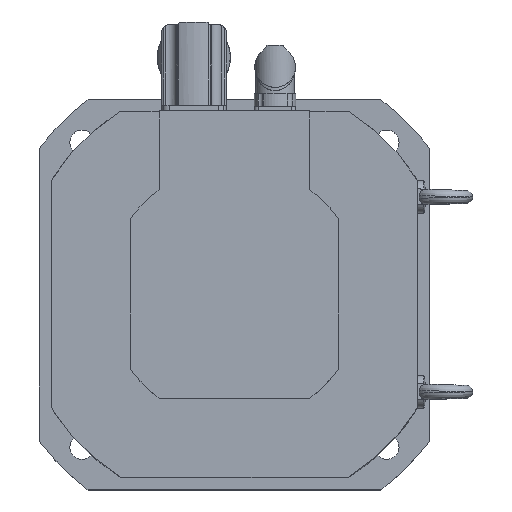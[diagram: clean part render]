
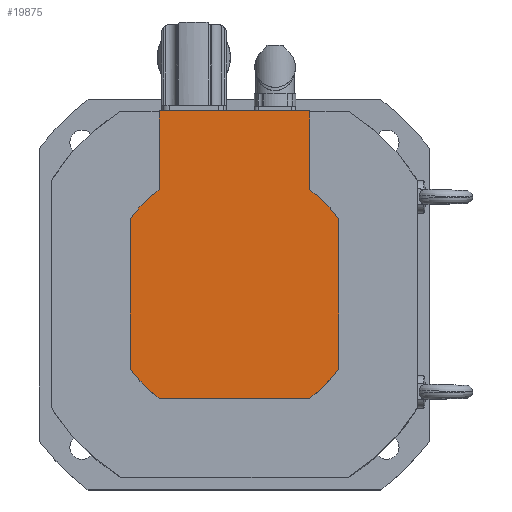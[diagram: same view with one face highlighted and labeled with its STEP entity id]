
A CAD part, top view. The second image highlights one B-rep face of the part: STEP entity #19875.
In plain terms, the highlighted planar face has unit normal (0, 0, 1).
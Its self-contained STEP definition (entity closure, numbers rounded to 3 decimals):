
#19623=CARTESIAN_POINT('',(64.,46.314,56.));
#19624=VERTEX_POINT('',#19623);
#19631=CARTESIAN_POINT('',(64.,-46.314,56.));
#19632=VERTEX_POINT('',#19631);
#19633=CARTESIAN_POINT('',(64.,-46.314,56.));
#19634=DIRECTION('',(0.0,1.0,0.0));
#19635=VECTOR('',#19634,92.628);
#19636=LINE('',#19633,#19635);
#19637=EDGE_CURVE('',#19632,#19624,#19636,.T.);
#19662=CARTESIAN_POINT('',(-64.,-46.314,56.));
#19663=VERTEX_POINT('',#19662);
#19670=CARTESIAN_POINT('',(-64.,46.314,56.));
#19671=VERTEX_POINT('',#19670);
#19672=CARTESIAN_POINT('',(-64.,46.314,56.));
#19673=DIRECTION('',(0.0,-1.0,0.0));
#19674=VECTOR('',#19673,92.628);
#19675=LINE('',#19672,#19674);
#19676=EDGE_CURVE('',#19671,#19663,#19675,.T.);
#19693=CARTESIAN_POINT('',(46.314,-64.,56.));
#19694=VERTEX_POINT('',#19693);
#19701=CARTESIAN_POINT('',(-46.314,-64.,56.));
#19702=VERTEX_POINT('',#19701);
#19703=CARTESIAN_POINT('',(-46.314,-64.,56.));
#19704=DIRECTION('',(1.0,0.0,0.0));
#19705=VECTOR('',#19704,92.628);
#19706=LINE('',#19703,#19705);
#19707=EDGE_CURVE('',#19702,#19694,#19706,.T.);
#19725=CARTESIAN_POINT('',(0.0,0.0,56.));
#19726=DIRECTION('',(0.0,0.0,-1.0));
#19727=DIRECTION('',(-1.0,0.0,0.0));
#19728=AXIS2_PLACEMENT_3D('',#19725,#19726,#19727);
#19729=CIRCLE('',#19728,79.0);
#19730=EDGE_CURVE('',#19632,#19694,#19729,.T.);
#19744=CARTESIAN_POINT('',(46.314,64.0,56.));
#19745=VERTEX_POINT('',#19744);
#19752=CARTESIAN_POINT('',(0.0,0.0,56.));
#19753=DIRECTION('',(0.0,0.0,-1.0));
#19754=DIRECTION('',(-1.0,0.0,0.0));
#19755=AXIS2_PLACEMENT_3D('',#19752,#19753,#19754);
#19756=CIRCLE('',#19755,79.0);
#19757=EDGE_CURVE('',#19745,#19624,#19756,.T.);
#19768=CARTESIAN_POINT('',(-46.314,64.0,56.));
#19769=VERTEX_POINT('',#19768);
#19770=CARTESIAN_POINT('',(0.0,0.0,56.));
#19771=DIRECTION('',(0.0,0.0,-1.0));
#19772=DIRECTION('',(-1.0,0.0,0.0));
#19773=AXIS2_PLACEMENT_3D('',#19770,#19771,#19772);
#19774=CIRCLE('',#19773,79.0);
#19775=EDGE_CURVE('',#19671,#19769,#19774,.T.);
#19795=CARTESIAN_POINT('',(0.0,0.0,56.));
#19796=DIRECTION('',(0.0,0.0,-1.0));
#19797=DIRECTION('',(-1.0,0.0,0.0));
#19798=AXIS2_PLACEMENT_3D('',#19795,#19796,#19797);
#19799=CIRCLE('',#19798,79.0);
#19800=EDGE_CURVE('',#19702,#19663,#19799,.T.);
#19812=CARTESIAN_POINT('',(-46.314,112.5,56.));
#19813=VERTEX_POINT('',#19812);
#19814=CARTESIAN_POINT('',(-46.314,64.0,56.));
#19815=DIRECTION('',(0.0,1.0,0.0));
#19816=VECTOR('',#19815,48.5);
#19817=LINE('',#19814,#19816);
#19818=EDGE_CURVE('',#19769,#19813,#19817,.T.);
#19834=CARTESIAN_POINT('',(46.314,112.5,56.));
#19835=VERTEX_POINT('',#19834);
#19842=CARTESIAN_POINT('',(46.314,64.0,56.));
#19843=DIRECTION('',(0.0,1.0,0.0));
#19844=VECTOR('',#19843,48.5);
#19845=LINE('',#19842,#19844);
#19846=EDGE_CURVE('',#19745,#19835,#19845,.T.);
#19853=CARTESIAN_POINT('',(64.,-64.,56.));
#19854=DIRECTION('',(0.0,0.0,-1.0));
#19855=DIRECTION('',(-1.0,0.0,0.0));
#19856=AXIS2_PLACEMENT_3D('',#19853,#19854,#19855);
#19857=PLANE('',#19856);
#19858=ORIENTED_EDGE('',*,*,#19637,.T.);
#19859=ORIENTED_EDGE('',*,*,#19757,.F.);
#19860=ORIENTED_EDGE('',*,*,#19846,.T.);
#19861=CARTESIAN_POINT('',(-46.314,112.5,56.));
#19862=DIRECTION('',(1.0,0.0,0.0));
#19863=VECTOR('',#19862,92.628);
#19864=LINE('',#19861,#19863);
#19865=EDGE_CURVE('',#19813,#19835,#19864,.T.);
#19866=ORIENTED_EDGE('',*,*,#19865,.F.);
#19867=ORIENTED_EDGE('',*,*,#19818,.F.);
#19868=ORIENTED_EDGE('',*,*,#19775,.F.);
#19869=ORIENTED_EDGE('',*,*,#19676,.T.);
#19870=ORIENTED_EDGE('',*,*,#19800,.F.);
#19871=ORIENTED_EDGE('',*,*,#19707,.T.);
#19872=ORIENTED_EDGE('',*,*,#19730,.F.);
#19873=EDGE_LOOP('',(#19858,#19859,#19860,#19866,#19867,#19868,#19869,#19870,#19871,#19872));
#19874=FACE_OUTER_BOUND('',#19873,.T.);
#19875=ADVANCED_FACE('',(#19874),#19857,.F.);
